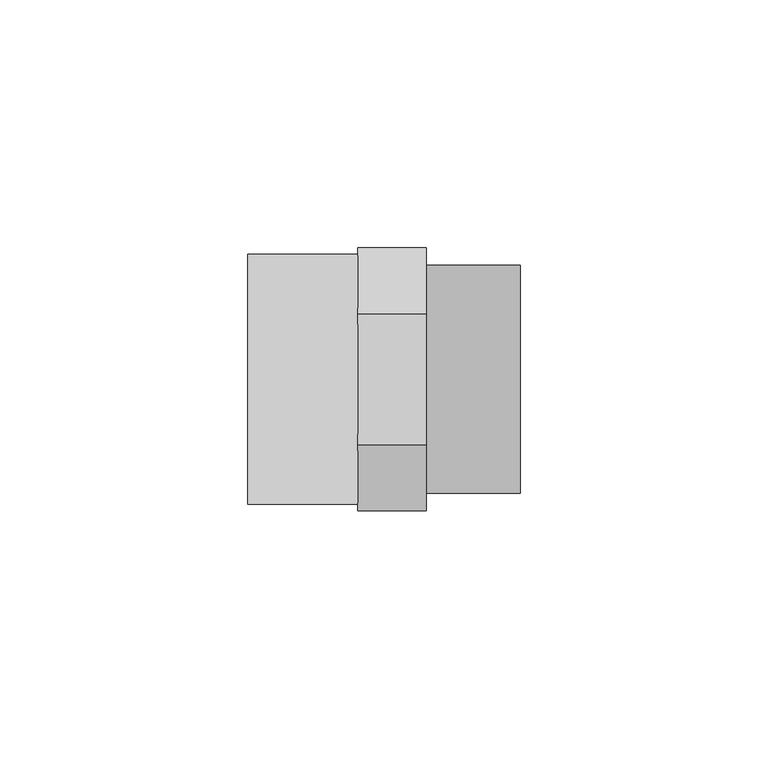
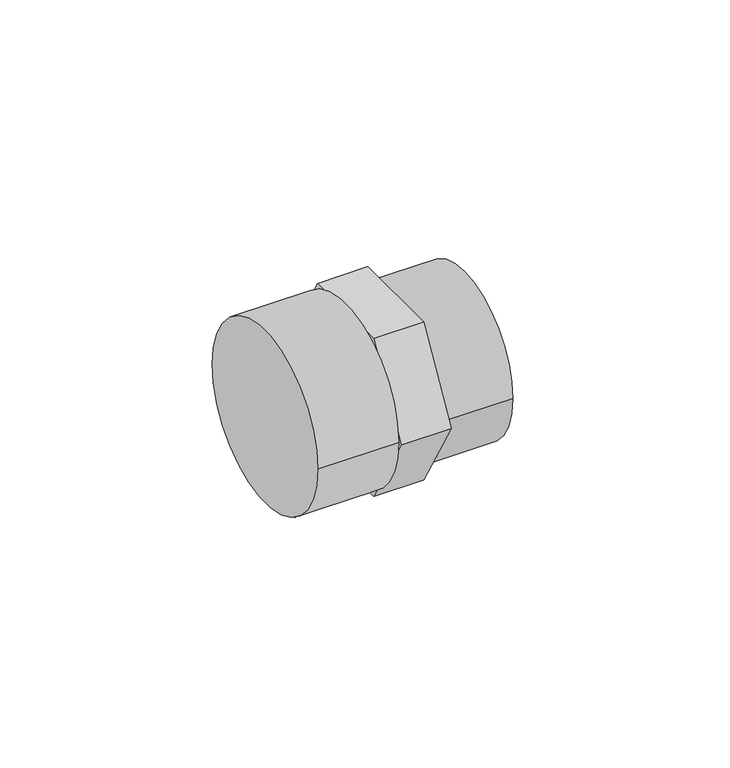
"""IFC4 building model written with IfcOpenShell, lengths in millimetres: pipe fitting geometry, 01011006 : Uniões de redução M/F."""

from ifc_helpers import new_model, si_unit, point, frame, origin, origin_2d, place, context, project, spatial, polyline, circle_curve, trimmed, segment, composite_curve, outline, extrude, source, transform, mapped, element, save


def pipe_fitting_c5af2806(model_context):
    return source(origin(), model_context, "Body", "SweptSolid", [
        extrude(outline(composite_curve([segment(trimmed(circle_curve(origin_2d(), 25.2), [point((25.2, 0.0))], [point((-25.2, 0.0))], False, "CARTESIAN"), True, "CONTINUOUS"), segment(trimmed(circle_curve(origin_2d(), 25.2), [point((-25.2, 0.0))], [point((25.2, 0.0))], False, "CARTESIAN"), True, "CONTINUOUS")], self_intersect=False)), frame((0.0, 0.0, 0.0), z_axis=(1.0, 0.0, 0.0), x_axis=(0.0, 1.0, 0.0)), (0.0, 0.0, 1.0), 22.25),
        extrude(outline(polyline([(-13.2790562, 23.0), (13.2790562, 23.0), (26.5581124, 0.0), (13.2790562, -23.0), (-13.2790562, -23.0), (-26.5581124, 0.0), (-13.2790562, 23.0)])), frame((22.25, 0.0, 0.0), z_axis=(1.0, 0.0, 0.0), x_axis=(0.0, 1.0, 0.0)), (0.0, 0.0, 1.0), 13.75),
        extrude(outline(composite_curve([segment(trimmed(circle_curve(origin_2d(), 23.0), [point((-23.0, 0.0))], [point((23.0, 0.0))], False, "CARTESIAN"), True, "CONTINUOUS"), segment(trimmed(circle_curve(origin_2d(), 23.0), [point((23.0, 0.0))], [point((-23.0, 0.0))], False, "CARTESIAN"), True, "CONTINUOUS")], self_intersect=False)), frame((36.0, 0.0, 0.0), z_axis=(1.0, 0.0, 0.0), x_axis=(0.0, 1.0, 0.0)), (0.0, 0.0, 1.0), 19.0),
    ])


if __name__ == "__main__":
    model = new_model("IFC4")
    model_context = context("Model", 3, world=origin())
    ifc_project = project(units=[si_unit("LENGTHUNIT", "METRE", prefix="MILLI")], contexts=[model_context])
    site = spatial("IfcSite", under=ifc_project)
    building = spatial("IfcBuilding", under=site)
    placement = place(None, origin())
    pipe_fitting_shape = pipe_fitting_c5af2806(model_context)
    element("IfcPipeFitting", 1, ObjectType="01011006 : Uniões de redução M/F", at=placement, inside=building, context=model_context, shape_type="MappedRepresentation", body=[
        mapped(pipe_fitting_shape, transform((0.0, 0.0, 0.0), x_axis=(1.0, 0.0, 0.0), y_axis=(0.0, 1.0, 0.0), z_axis=(0.0, 0.0, 1.0))),
    ])
    save(model, "model.ifc")
